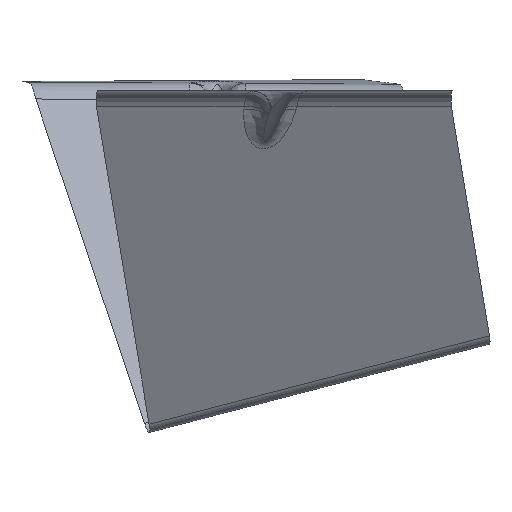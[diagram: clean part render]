
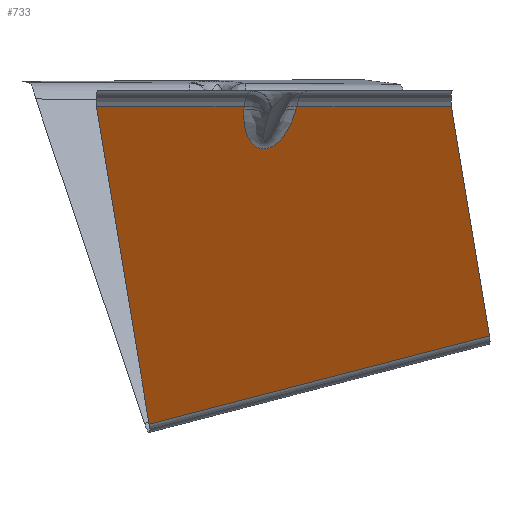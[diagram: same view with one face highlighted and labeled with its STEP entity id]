
A CAD part, left-side view. The second image highlights one B-rep face of the part: STEP entity #733.
In plain terms, the highlighted planar face has unit normal (-0.83, -0.249, -0.5).
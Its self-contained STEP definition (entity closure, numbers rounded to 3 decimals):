
#251=CARTESIAN_POINT('Vertex',(-101.115,8.668,-0.6)) ;
#274=CARTESIAN_POINT('Line Origine',(-79.852,11.166,-37.118)) ;
#278=CARTESIAN_POINT('Vertex',(-100.659,8.722,-1.382)) ;
#618=CARTESIAN_POINT('Control Point',(-96.245,-5.993,-1.382)) ;
#619=CARTESIAN_POINT('Control Point',(-95.792,-5.765,-2.247)) ;
#620=CARTESIAN_POINT('Control Point',(-95.352,-5.498,-3.11)) ;
#621=CARTESIAN_POINT('Control Point',(-94.927,-5.19,-3.968)) ;
#622=CARTESIAN_POINT('Control Point',(-94.33,-4.676,-5.214)) ;
#623=CARTESIAN_POINT('Control Point',(-93.777,-4.052,-6.443)) ;
#624=CARTESIAN_POINT('Control Point',(-93.608,-3.844,-6.827)) ;
#625=CARTESIAN_POINT('Control Point',(-93.299,-3.43,-7.546)) ;
#626=CARTESIAN_POINT('Control Point',(-93.011,-2.966,-8.253)) ;
#627=CARTESIAN_POINT('Control Point',(-92.881,-2.736,-8.584)) ;
#628=CARTESIAN_POINT('Control Point',(-92.652,-2.287,-9.187)) ;
#629=CARTESIAN_POINT('Control Point',(-92.448,-1.787,-9.774)) ;
#630=CARTESIAN_POINT('Control Point',(-92.361,-1.545,-10.039)) ;
#631=CARTESIAN_POINT('Control Point',(-92.163,-0.919,-10.679)) ;
#632=CARTESIAN_POINT('Control Point',(-92.02,-0.2,-11.275)) ;
#633=CARTESIAN_POINT('Control Point',(-91.958,0.267,-11.609)) ;
#634=CARTESIAN_POINT('Control Point',(-91.919,1.025,-12.052)) ;
#635=CARTESIAN_POINT('Control Point',(-91.996,1.889,-12.354)) ;
#636=CARTESIAN_POINT('Control Point',(-92.034,2.177,-12.434)) ;
#637=CARTESIAN_POINT('Control Point',(-92.133,2.715,-12.537)) ;
#638=CARTESIAN_POINT('Control Point',(-92.284,3.257,-12.557)) ;
#639=CARTESIAN_POINT('Control Point',(-92.363,3.499,-12.547)) ;
#640=CARTESIAN_POINT('Control Point',(-92.6,4.14,-12.472)) ;
#641=CARTESIAN_POINT('Control Point',(-92.889,4.718,-12.281)) ;
#642=CARTESIAN_POINT('Control Point',(-93.084,5.051,-12.122)) ;
#643=CARTESIAN_POINT('Control Point',(-93.428,5.568,-11.809)) ;
#644=CARTESIAN_POINT('Control Point',(-93.781,6.005,-11.441)) ;
#645=CARTESIAN_POINT('Control Point',(-93.93,6.176,-11.278)) ;
#646=CARTESIAN_POINT('Control Point',(-94.267,6.536,-10.899)) ;
#647=CARTESIAN_POINT('Control Point',(-94.602,6.844,-10.496)) ;
#648=CARTESIAN_POINT('Control Point',(-94.788,7.,-10.266)) ;
#649=CARTESIAN_POINT('Control Point',(-95.204,7.327,-9.738)) ;
#650=CARTESIAN_POINT('Control Point',(-95.616,7.598,-9.19)) ;
#651=CARTESIAN_POINT('Control Point',(-95.843,7.734,-8.881)) ;
#652=CARTESIAN_POINT('Control Point',(-96.348,8.008,-8.18)) ;
#653=CARTESIAN_POINT('Control Point',(-96.843,8.222,-7.465)) ;
#654=CARTESIAN_POINT('Control Point',(-97.115,8.325,-7.065)) ;
#655=CARTESIAN_POINT('Control Point',(-98.021,8.621,-5.709)) ;
#656=CARTESIAN_POINT('Control Point',(-98.897,8.764,-4.327)) ;
#657=CARTESIAN_POINT('Control Point',(-99.498,8.804,-3.35)) ;
#658=CARTESIAN_POINT('Control Point',(-100.086,8.789,-2.368)) ;
#659=CARTESIAN_POINT('Control Point',(-100.659,8.722,-1.382)) ;
#660=CARTESIAN_POINT('Vertex',(-96.245,-5.993,-1.382)) ;
#678=CARTESIAN_POINT('Axis2P3D Location',(-44.724,-13.417,-83.16)) ;
#683=CARTESIAN_POINT('Line Origine',(-96.45,-6.096,-0.991)) ;
#687=CARTESIAN_POINT('Vertex',(-96.654,-6.199,-0.6)) ;
#690=CARTESIAN_POINT('Line Origine',(-107.356,29.474,-0.6)) ;
#694=CARTESIAN_POINT('Vertex',(-113.598,50.279,-0.6)) ;
#697=CARTESIAN_POINT('Line Origine',(-84.401,42.856,-45.343)) ;
#701=CARTESIAN_POINT('Vertex',(-55.204,35.433,-90.087)) ;
#704=CARTESIAN_POINT('Line Origine',(-48.323,-12.502,-77.644)) ;
#708=CARTESIAN_POINT('Vertex',(-41.443,-60.438,-65.202)) ;
#711=CARTESIAN_POINT('Line Origine',(-62.52,-55.079,-32.901)) ;
#715=CARTESIAN_POINT('Vertex',(-83.598,-49.721,-0.6)) ;
#718=CARTESIAN_POINT('Line Origine',(-90.126,-27.96,-0.6)) ;
#275=DIRECTION('Vector Direction',(0.502,0.059,-0.863)) ;
#679=DIRECTION('Axis2P3D Direction',(0.83,0.249,0.5)) ;
#680=DIRECTION('Axis2P3D XDirection',(0.541,-0.138,-0.83)) ;
#684=DIRECTION('Vector Direction',(-0.452,-0.227,0.863)) ;
#691=DIRECTION('Vector Direction',(0.287,-0.958,0.)) ;
#698=DIRECTION('Vector Direction',(0.541,-0.138,-0.83)) ;
#705=DIRECTION('Vector Direction',(0.138,-0.959,0.249)) ;
#712=DIRECTION('Vector Direction',(-0.541,0.138,0.83)) ;
#719=DIRECTION('Vector Direction',(0.287,-0.958,0.)) ;
#681=AXIS2_PLACEMENT_3D('Plane Axis2P3D',#678,#679,#680) ;
#724=ORIENTED_EDGE('',*,*,#689,.T.) ;
#725=ORIENTED_EDGE('',*,*,#662,.T.) ;
#726=ORIENTED_EDGE('',*,*,#280,.T.) ;
#727=ORIENTED_EDGE('',*,*,#696,.F.) ;
#728=ORIENTED_EDGE('',*,*,#703,.T.) ;
#729=ORIENTED_EDGE('',*,*,#710,.T.) ;
#730=ORIENTED_EDGE('',*,*,#717,.T.) ;
#731=ORIENTED_EDGE('',*,*,#722,.F.) ;
#276=VECTOR('Line Direction',#275,1.) ;
#685=VECTOR('Line Direction',#684,1.) ;
#692=VECTOR('Line Direction',#691,1.) ;
#699=VECTOR('Line Direction',#698,1.) ;
#706=VECTOR('Line Direction',#705,1.) ;
#713=VECTOR('Line Direction',#712,1.) ;
#720=VECTOR('Line Direction',#719,1.) ;
#733=ADVANCED_FACE('Extract.1',(#732),#682,.F.) ;
#617=B_SPLINE_CURVE_WITH_KNOTS('',5,(#618,#619,#620,#621,#622,#623,#624,#625,#626,#627,#628,#629,#630,#631,#632,#633,#634,#635,#636,#637,#638,#639,#640,#641,#642,#643,#644,#645,#646,#647,#648,#649,#650,#651,#652,#653,#654,#655,#656,#657,#658,#659),.UNSPECIFIED.,.F.,.U.,(6,3,3,3,3,3,3,3,3,3,3,3,3,6),(27.331,33.983,37.024,39.722,42.019,45.372,46.96,48.267,50.511,52.152,54.202,56.78,59.974,67.557),.UNSPECIFIED.) ;
#280=EDGE_CURVE('',#279,#252,#277,.F.) ;
#662=EDGE_CURVE('',#661,#279,#617,.T.) ;
#689=EDGE_CURVE('',#688,#661,#686,.F.) ;
#696=EDGE_CURVE('',#695,#252,#693,.T.) ;
#703=EDGE_CURVE('',#695,#702,#700,.T.) ;
#710=EDGE_CURVE('',#702,#709,#707,.T.) ;
#717=EDGE_CURVE('',#709,#716,#714,.T.) ;
#722=EDGE_CURVE('',#688,#716,#721,.T.) ;
#723=EDGE_LOOP('',(#724,#725,#726,#727,#728,#729,#730,#731)) ;
#732=FACE_OUTER_BOUND('',#723,.T.) ;
#277=LINE('Line',#274,#276) ;
#686=LINE('Line',#683,#685) ;
#693=LINE('Line',#690,#692) ;
#700=LINE('Line',#697,#699) ;
#707=LINE('Line',#704,#706) ;
#714=LINE('Line',#711,#713) ;
#721=LINE('Line',#718,#720) ;
#682=PLANE('',#681) ;
#252=VERTEX_POINT('',#251) ;
#279=VERTEX_POINT('',#278) ;
#661=VERTEX_POINT('',#660) ;
#688=VERTEX_POINT('',#687) ;
#695=VERTEX_POINT('',#694) ;
#702=VERTEX_POINT('',#701) ;
#709=VERTEX_POINT('',#708) ;
#716=VERTEX_POINT('',#715) ;
